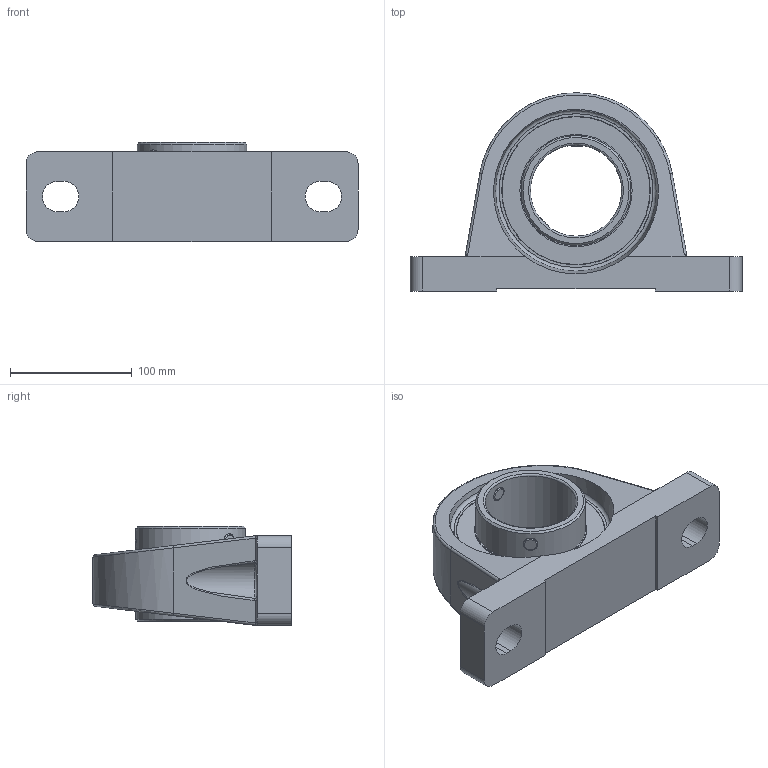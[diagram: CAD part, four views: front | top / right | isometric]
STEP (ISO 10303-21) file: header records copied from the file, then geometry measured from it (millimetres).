
FILE_DESCRIPTION(/* description */ (''),/* implementation_level */ '2;1');
FILE_NAME(/* name */ 'C:\MOJE SUBORY\03_Doplnenie 3D modelov\nove\sgc_hotove\SGC215.stp',/* time_stamp */ '2023-06-29T10:17:37+02:00',/* author */ ('OUPIONTEKM'),/* organization */ (''),/* preprocessor_version */ 'ST-DEVELOPER v19',/* originating_system */ 'Autodesk Inventor 2023',/* authorisation */ '');
FILE_SCHEMA (('AUTOMOTIVE_DESIGN { 1 0 10303 214 3 1 1 }'));
Length unit declared in the file: millimetre
Products named in the file (10): SGC203; sg205; UC215; UC215-02; UC215-ball; UC215-01; UC215-cage; UC215-seal; M12X9; UC215-shield
Assembly tree (20 placements, depth 3):
  SGC203
    sg205
    UC215
      UC215-02
      UC215-ball  x8
      UC215-01
      UC215-cage  x2
      UC215-seal  x2
      M12X9  x2
      UC215-shield  x2
Bounding box: 273 x 162.98 x 81.5 mm (x, y, z)
Volume: 1135362.6 mm3; surface area: 247889.5 mm2
Topology: 19 solids, 19 shells, 199 faces, 620 edges, 406 vertices
Faces by surface type: plane 79, cylinder 49, sphere 43, bspline 12, torus 8, cone 8
Full cylindrical faces by diameter (mm): 2 x2, 12 x4, 75 x1, 90.277 x6, 92.277 x2, 97.261 x2, 107.739 x2, 114.723 x2, 121.623 x2, 122.223 x4, 132 x1
Entity records: 6626 total; most frequent: CARTESIAN_POINT 2326, DIRECTION 902, ORIENTED_EDGE 814, EDGE_CURVE 407, AXIS2_PLACEMENT_3D 400, VERTEX_POINT 278, CIRCLE 217, EDGE_LOOP 165
